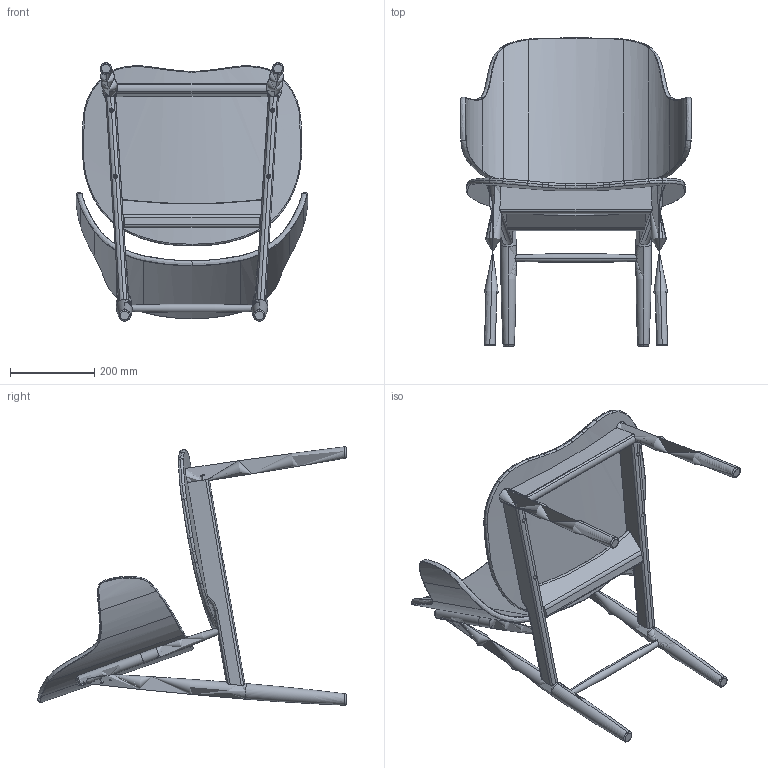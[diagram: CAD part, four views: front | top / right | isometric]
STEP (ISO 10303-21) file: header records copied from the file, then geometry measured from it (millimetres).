
FILE_DESCRIPTION (( 'STEP AP214' ), '1' );
FILE_NAME ('Penguin Lounge Chair_Wood.STEP', '2023-12-20T11:25:39', ( '' ), ( '' ), 'SwSTEP 2.0', 'SolidWorks 2022', '' );
FILE_SCHEMA (( 'AUTOMOTIVE_DESIGN' ));
Length unit declared in the file: millimetre
Products named in the file (16): Penguin Lounge Chair - Wood_Base_joinery back; MirrorPenguin Lounge Chair - Wood_Base_joinery side; MirrorPenguin Lounge Chair - Wood_Base leg back; Penguin Lounge Chair - Wood_Seat; Penguin Lounge Chair - Wood_Base_joinery back 2; MirrorPenguin Lounge Chair - Wood_Base_leg front; Penguin Lounge Chair - Wood_Base_joinery middle; Penguin Lounge Chair - Wood_Base_joinery side; Penguin Lounge Chair - Wood_Base_joinery front; Penguin Lounge Chair - Wood_Backrest; Dowel Ø 8x20; Penguin Lounge Chair_Wood; Penguin Lounge Chair - Wood_Base_leg front; MirrorPenguin Lounge Chair - Wood_Base_joinery back; Dowel Ø 10x28; Penguin Lounge Chair - Wood_Base leg back
Assembly tree (33 placements, depth 2):
  Penguin Lounge Chair_Wood
    Penguin Lounge Chair - Wood_Seat
    Penguin Lounge Chair - Wood_Backrest
    Penguin Lounge Chair - Wood_Base_leg front
    Penguin Lounge Chair - Wood_Base leg back
    Penguin Lounge Chair - Wood_Base_joinery side
    Penguin Lounge Chair - Wood_Base_joinery back
    Penguin Lounge Chair - Wood_Base_joinery back 2
    Penguin Lounge Chair - Wood_Base_joinery front
    Penguin Lounge Chair - Wood_Base_joinery middle
    MirrorPenguin Lounge Chair - Wood_Base_joinery side
    MirrorPenguin Lounge Chair - Wood_Base_joinery back
    MirrorPenguin Lounge Chair - Wood_Base leg back
    MirrorPenguin Lounge Chair - Wood_Base_leg front
    Dowel Ø 10x28  x16
    Dowel Ø 8x20  x4
Bounding box: 550.99 x 733.23 x 614.84 mm (x, y, z)
Volume: 9184534.9 mm3; surface area: 1440082 mm2
Topology: 33 solids, 33 shells, 728 faces, 1778 edges, 1028 vertices
Faces by surface type: cylinder 214, bspline 199, cone 164, plane 93, torus 54, sphere 4
Entity records: 61206 total; most frequent: CARTESIAN_POINT 48773, ORIENTED_EDGE 2816, DIRECTION 1887, EDGE_CURVE 1408, VERTEX_POINT 884, AXIS2_PLACEMENT_3D 796, B_SPLINE_CURVE_WITH_KNOTS 661, EDGE_LOOP 630
